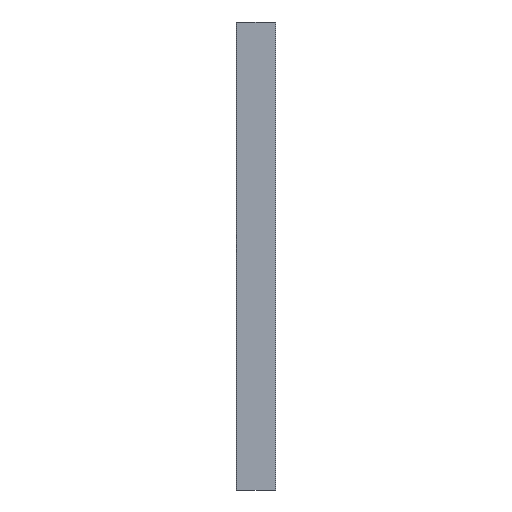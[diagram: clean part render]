
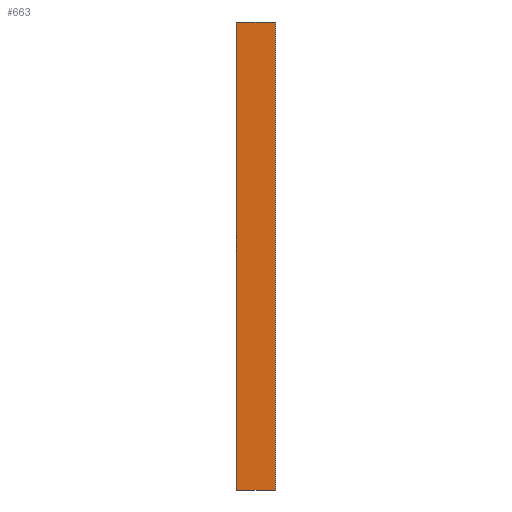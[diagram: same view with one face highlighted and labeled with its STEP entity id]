
A CAD part, left-side view. The second image highlights one B-rep face of the part: STEP entity #663.
In plain terms, the highlighted planar face has unit normal (-1, 0, 0).
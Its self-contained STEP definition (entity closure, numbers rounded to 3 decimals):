
#57 = DIRECTION ( 'NONE',  ( 0., 0., -1. ) ) ;
#70 = EDGE_CURVE ( 'NONE', #652, #144, #534, .T. ) ;
#122 = EDGE_LOOP ( 'NONE', ( #758, #266, #210, #1377 ) ) ;
#132 = DIRECTION ( 'NONE',  ( 0., -1., 0. ) ) ;
#144 = VERTEX_POINT ( 'NONE', #1495 ) ;
#184 = VECTOR ( 'NONE', #57, 1000. ) ;
#210 = ORIENTED_EDGE ( 'NONE', *, *, #928, .T. ) ;
#222 = CARTESIAN_POINT ( 'NONE',  ( -38.1, 94.6, 0. ) ) ;
#266 = ORIENTED_EDGE ( 'NONE', *, *, #1130, .F. ) ;
#446 = CARTESIAN_POINT ( 'NONE',  ( -38.1, 94.6, -1136. ) ) ;
#502 = DIRECTION ( 'NONE',  ( 0., -1., 0. ) ) ;
#531 = VECTOR ( 'NONE', #1212, 1000. ) ;
#532 = EDGE_CURVE ( 'NONE', #620, #144, #1256, .T. ) ;
#534 = LINE ( 'NONE', #923, #184 ) ;
#546 = FACE_OUTER_BOUND ( 'NONE', #122, .T. ) ;
#579 = LINE ( 'NONE', #222, #906 ) ;
#594 = VERTEX_POINT ( 'NONE', #861 ) ;
#620 = VERTEX_POINT ( 'NONE', #1071 ) ;
#652 = VERTEX_POINT ( 'NONE', #1415 ) ;
#663 = ADVANCED_FACE ( 'NONE', ( #546 ), #1407, .F. ) ;
#743 = VECTOR ( 'NONE', #502, 1000. ) ;
#758 = ORIENTED_EDGE ( 'NONE', *, *, #70, .F. ) ;
#861 = CARTESIAN_POINT ( 'NONE',  ( -38.1, 94.6, 0. ) ) ;
#906 = VECTOR ( 'NONE', #132, 1000. ) ;
#923 = CARTESIAN_POINT ( 'NONE',  ( -38.1, 0.5, 0. ) ) ;
#928 = EDGE_CURVE ( 'NONE', #594, #620, #1168, .T. ) ;
#1031 = AXIS2_PLACEMENT_3D ( 'NONE', #1513, #1533, #1538 ) ;
#1071 = CARTESIAN_POINT ( 'NONE',  ( -38.1, 94.6, -1136. ) ) ;
#1117 = CARTESIAN_POINT ( 'NONE',  ( -38.1, 94.6, 0. ) ) ;
#1130 = EDGE_CURVE ( 'NONE', #594, #652, #579, .T. ) ;
#1168 = LINE ( 'NONE', #1117, #531 ) ;
#1212 = DIRECTION ( 'NONE',  ( 0., 0., -1. ) ) ;
#1256 = LINE ( 'NONE', #446, #743 ) ;
#1377 = ORIENTED_EDGE ( 'NONE', *, *, #532, .T. ) ;
#1407 = PLANE ( 'NONE',  #1031 ) ;
#1415 = CARTESIAN_POINT ( 'NONE',  ( -38.1, 0.5, 0. ) ) ;
#1495 = CARTESIAN_POINT ( 'NONE',  ( -38.1, 0.5, -1136. ) ) ;
#1513 = CARTESIAN_POINT ( 'NONE',  ( -38.1, 94.6, 0. ) ) ;
#1533 = DIRECTION ( 'NONE',  ( 1., 0., 0. ) ) ;
#1538 = DIRECTION ( 'NONE',  ( 0., 1., 0. ) ) ;
